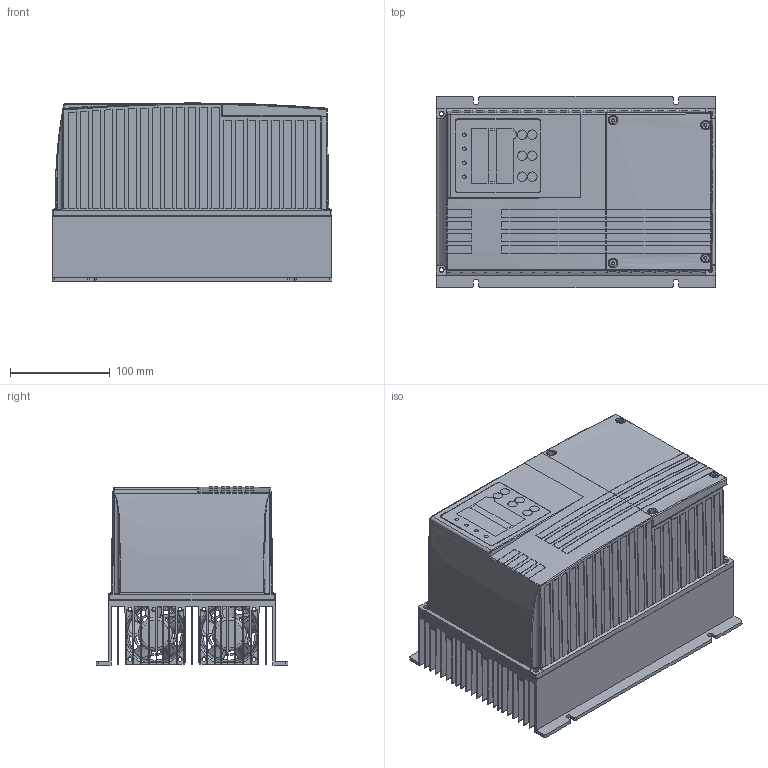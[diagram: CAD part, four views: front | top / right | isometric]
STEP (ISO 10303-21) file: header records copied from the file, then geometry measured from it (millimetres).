
FILE_DESCRIPTION((''),'2;1');
FILE_NAME('ZA5_ASM_ASM','2017-12-11T',('PC-TR'),(''),'PRO/ENGINEER BY PARAMETRIC TECHNOLOGY CORPORATION, 2010280','PRO/ENGINEER BY PARAMETRIC TECHNOLOGY CORPORATION, 2010280','');
FILE_SCHEMA(('CONFIG_CONTROL_DESIGN'));
Products named in the file (1): ZA5_ASM_ASM
Bounding box: 280 x 192 x 178.18 mm (x, y, z)
Volume: 994699 mm3; surface area: 1168423.7 mm2
Topology: 17 solids, 18 shells, 1931 faces, 5380 edges, 3538 vertices
Faces by surface type: plane 1049, cylinder 583, torus 213, bspline 55, cone 20, extrusion 6, sphere 5
Entity records: 71943 total; most frequent: CARTESIAN_POINT 21877, ORIENTED_EDGE 10740, DIRECTION 10185, EDGE_CURVE 5375, AXIS2_PLACEMENT_3D 3551, VERTEX_POINT 3538, VECTOR 3083, LINE 3077
